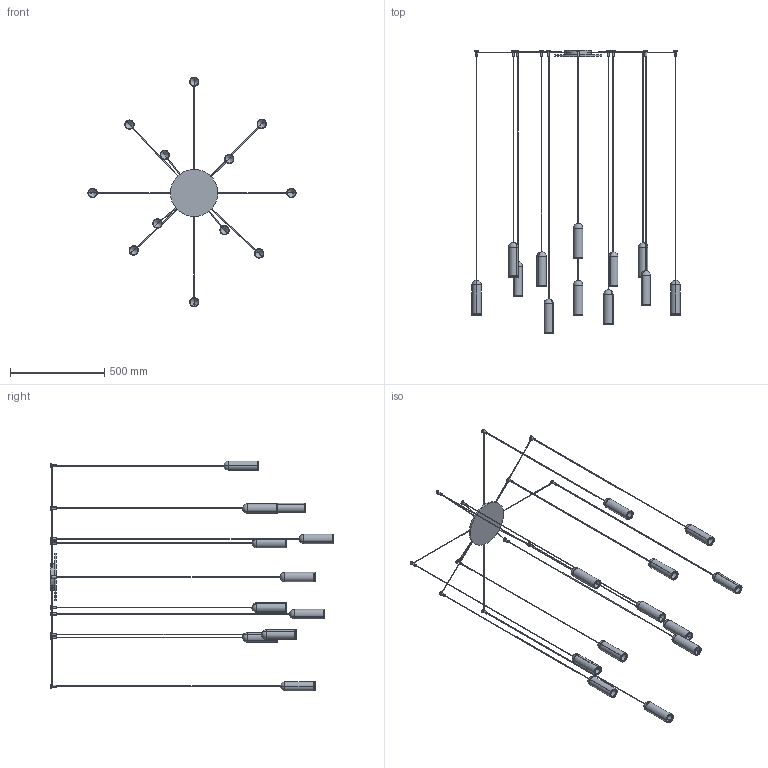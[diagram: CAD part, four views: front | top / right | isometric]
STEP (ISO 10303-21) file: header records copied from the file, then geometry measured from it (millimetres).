
FILE_DESCRIPTION (( 'STEP AP203' ), '1' );
FILE_NAME ('NANC2-00-NANUM_12 sospensione.STEP', '2025-05-21T09:18:53', ( '' ), ( '' ), 'SwSTEP 2.0', 'SolidWorks 2022', '' );
FILE_SCHEMA (( 'CONFIG_CONTROL_DESIGN' ));
Length unit declared in the file: millimetre
Products named in the file (10): NANUM_LAMPADA SINGOLA_H=1700; NANUM_LAMPADA SINGOLA_H=1900; NANUM_LAMPADA SINGOLA_H=1650; NANUM_LAMPADA SINGOLA_H=1800; NANUM_LAMPADA SINGOLA_H=1750; NANC2-00-NANUM_12 sospensione; NANUM_LAMPADA SINGOLA_H=1550; NANUM_LAMPADA SINGOLA_H=1500; Nanum_Rosone_NANUM_12 sospensione (d2200)<A macchina>; NANUM_LAMPADA SINGOLA_H=1600
Assembly tree (13 placements, depth 2):
  NANC2-00-NANUM_12 sospensione
    Nanum_Rosone_NANUM_12 sospensione (d2200)<A macchina>
    NANUM_LAMPADA SINGOLA_H=1600  x3
    NANUM_LAMPADA SINGOLA_H=1750  x2
    NANUM_LAMPADA SINGOLA_H=1700
    NANUM_LAMPADA SINGOLA_H=1550
    NANUM_LAMPADA SINGOLA_H=1800  x2
    NANUM_LAMPADA SINGOLA_H=1650
    NANUM_LAMPADA SINGOLA_H=1900
    NANUM_LAMPADA SINGOLA_H=1500
Bounding box: 1103 x 1504.5 x 1218 mm (x, y, z)
Volume: 1964506.4 mm3; surface area: 1085515.2 mm2
Topology: 37 solids, 37 shells, 455 faces, 985 edges, 557 vertices
Faces by surface type: cylinder 238, plane 97, cone 48, sphere 48, torus 24
Entity records: 9663 total; most frequent: CARTESIAN_POINT 1953, DIRECTION 1547, ORIENTED_EDGE 1202, AXIS2_PLACEMENT_3D 679, EDGE_CURVE 601, VERTEX_POINT 365, EDGE_LOOP 360, CIRCLE 336
